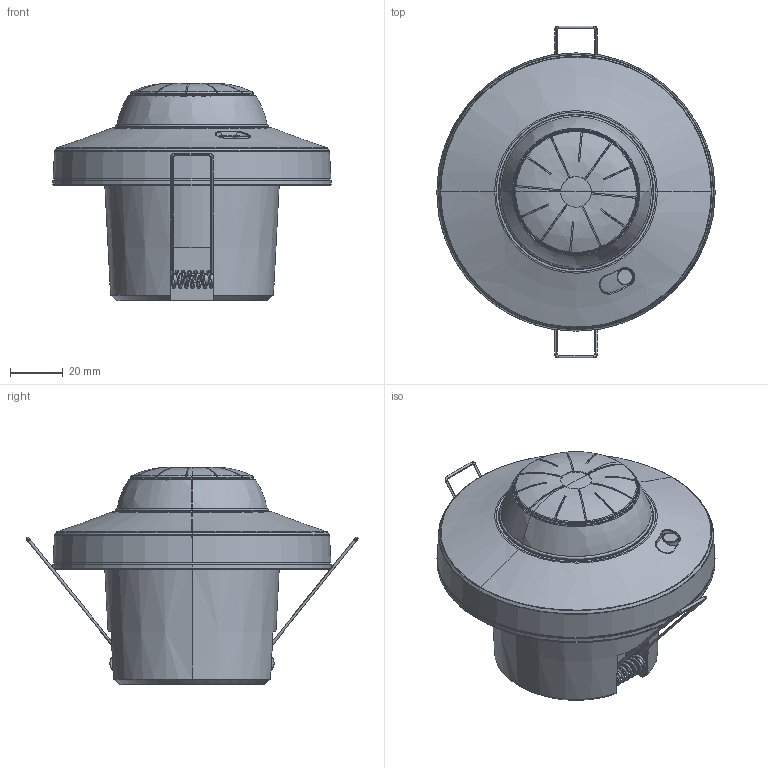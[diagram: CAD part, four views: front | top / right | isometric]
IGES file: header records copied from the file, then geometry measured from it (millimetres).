
Start section: SolidWorks IGES file using analytic representation for surfaces
Global section: file name: C:\Users\Public\HAOSENSOFTWARE\YFTSolidWorksArasPLM-V3.1.3-2023-beta\SaveAs_files\9C1-4552213-000-00.IGS; native system: SolidWorks 2023; preprocessor: SolidWorks 2023; author: P.SACHSENWEGER; date: 251029.160017; units: millimetre
Bounding box: 105.1 x 125.33 x 81.97 mm (x, y, z)
Surface area: 98441.2 mm2 (no closed solid volume)
Topology: 0 solids, 0 shells, 534 faces, 8389 edges, 8386 vertices
Faces by surface type: bspline 344, revolution 190
